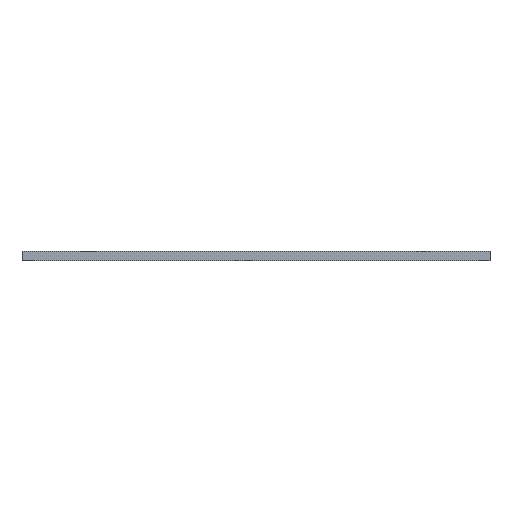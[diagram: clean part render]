
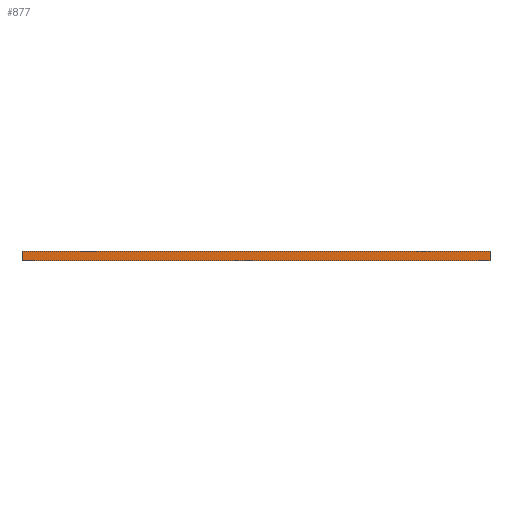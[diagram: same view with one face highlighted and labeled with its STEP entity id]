
A CAD part, front view. The second image highlights one B-rep face of the part: STEP entity #877.
In plain terms, the highlighted planar face has unit normal (0, -1, 0).
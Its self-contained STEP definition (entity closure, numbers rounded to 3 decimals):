
#28 = LINE ( 'NONE', #1021, #192 ) ;
#70 = VECTOR ( 'NONE', #438, 1000. ) ;
#80 = DIRECTION ( 'NONE',  ( -1., 0., 0. ) ) ;
#188 = CARTESIAN_POINT ( 'NONE',  ( -38., -55., 1.5 ) ) ;
#192 = VECTOR ( 'NONE', #282, 1000. ) ;
#239 = ORIENTED_EDGE ( 'NONE', *, *, #258, .F. ) ;
#243 = EDGE_CURVE ( 'NONE', #902, #1043, #690, .T. ) ;
#256 = CARTESIAN_POINT ( 'NONE',  ( -38., -55., 0. ) ) ;
#258 = EDGE_CURVE ( 'NONE', #803, #1043, #432, .T. ) ;
#268 = DIRECTION ( 'NONE',  ( 0., 1., 0. ) ) ;
#274 = PLANE ( 'NONE',  #805 ) ;
#279 = ORIENTED_EDGE ( 'NONE', *, *, #794, .T. ) ;
#282 = DIRECTION ( 'NONE',  ( 1., 0., 0. ) ) ;
#303 = ORIENTED_EDGE ( 'NONE', *, *, #243, .T. ) ;
#313 = DIRECTION ( 'NONE',  ( 0., 0., -1. ) ) ;
#317 = ORIENTED_EDGE ( 'NONE', *, *, #986, .F. ) ;
#381 = EDGE_LOOP ( 'NONE', ( #303, #239, #317, #279 ) ) ;
#432 = LINE ( 'NONE', #612, #70 ) ;
#438 = DIRECTION ( 'NONE',  ( 0., 0., -1. ) ) ;
#558 = LINE ( 'NONE', #1057, #982 ) ;
#612 = CARTESIAN_POINT ( 'NONE',  ( 38., -55., 1.5 ) ) ;
#643 = CARTESIAN_POINT ( 'NONE',  ( 38., -55., 1.5 ) ) ;
#690 = LINE ( 'NONE', #827, #749 ) ;
#747 = DIRECTION ( 'NONE',  ( 1., 0., 0. ) ) ;
#749 = VECTOR ( 'NONE', #747, 1000. ) ;
#750 = CARTESIAN_POINT ( 'NONE',  ( 38., -55., 0. ) ) ;
#794 = EDGE_CURVE ( 'NONE', #893, #902, #558, .T. ) ;
#803 = VERTEX_POINT ( 'NONE', #643 ) ;
#805 = AXIS2_PLACEMENT_3D ( 'NONE', #830, #268, #80 ) ;
#827 = CARTESIAN_POINT ( 'NONE',  ( 38., -55., 0. ) ) ;
#830 = CARTESIAN_POINT ( 'NONE',  ( 38., -55., 1.5 ) ) ;
#877 = ADVANCED_FACE ( 'NONE', ( #988 ), #274, .F. ) ;
#893 = VERTEX_POINT ( 'NONE', #188 ) ;
#902 = VERTEX_POINT ( 'NONE', #256 ) ;
#982 = VECTOR ( 'NONE', #313, 1000. ) ;
#986 = EDGE_CURVE ( 'NONE', #893, #803, #28, .T. ) ;
#988 = FACE_OUTER_BOUND ( 'NONE', #381, .T. ) ;
#1021 = CARTESIAN_POINT ( 'NONE',  ( 38., -55., 1.5 ) ) ;
#1043 = VERTEX_POINT ( 'NONE', #750 ) ;
#1057 = CARTESIAN_POINT ( 'NONE',  ( -38., -55., 1.5 ) ) ;
